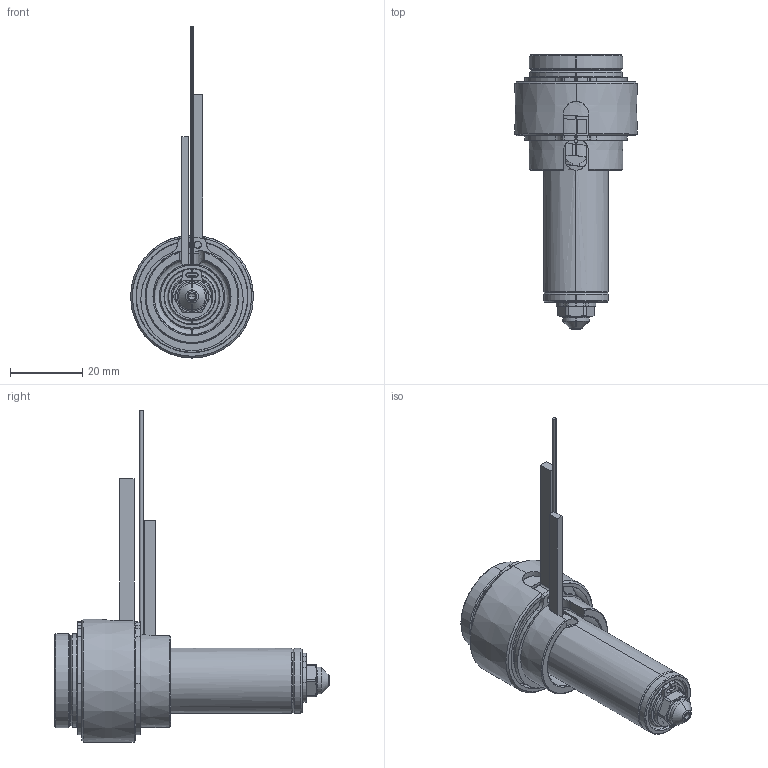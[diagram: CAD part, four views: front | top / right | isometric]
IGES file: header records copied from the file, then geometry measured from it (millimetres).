
Start section: SolidWorks IGES file using analytic representation for surfaces
Global section: file name: C:\Documents and Settings\ws-20\Desktop\TEM\UGER2501-S-A-1 [Øb-1.90 ØC-4.0].IGS; native system: SolidWorks 2012; preprocessor: SolidWorks 2012; author: ws-20; date: 120405.101705; units: millimetre
Bounding box: 34 x 75.9 x 91.9 mm (x, y, z)
Surface area: 21198.3 mm2 (no closed solid volume)
Topology: 0 solids, 0 shells, 206 faces, 2721 edges, 2719 vertices
Faces by surface type: revolution 133, bspline 73
